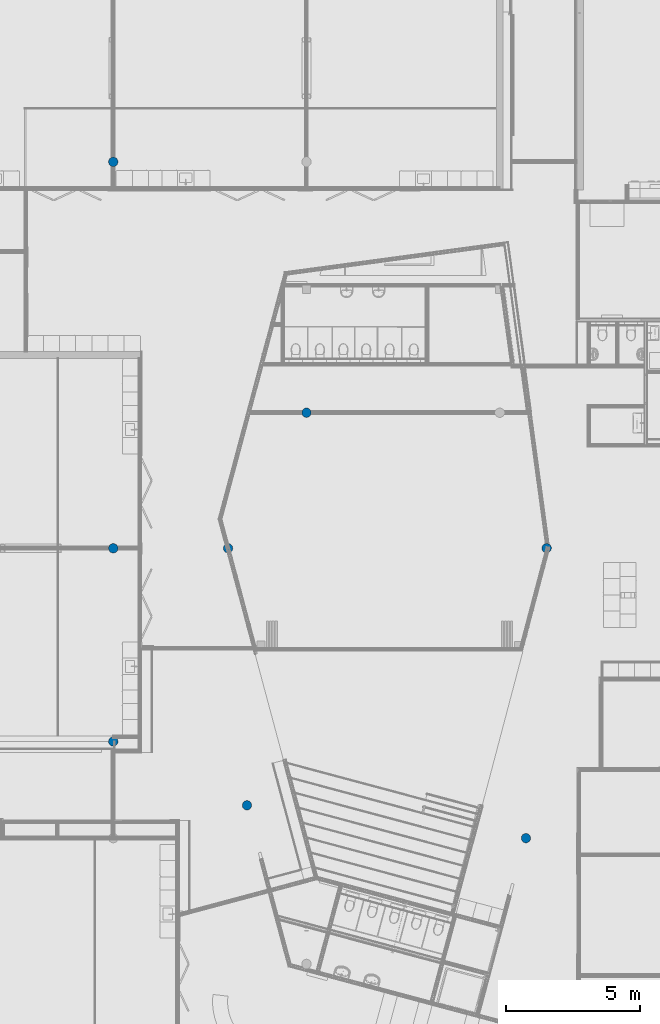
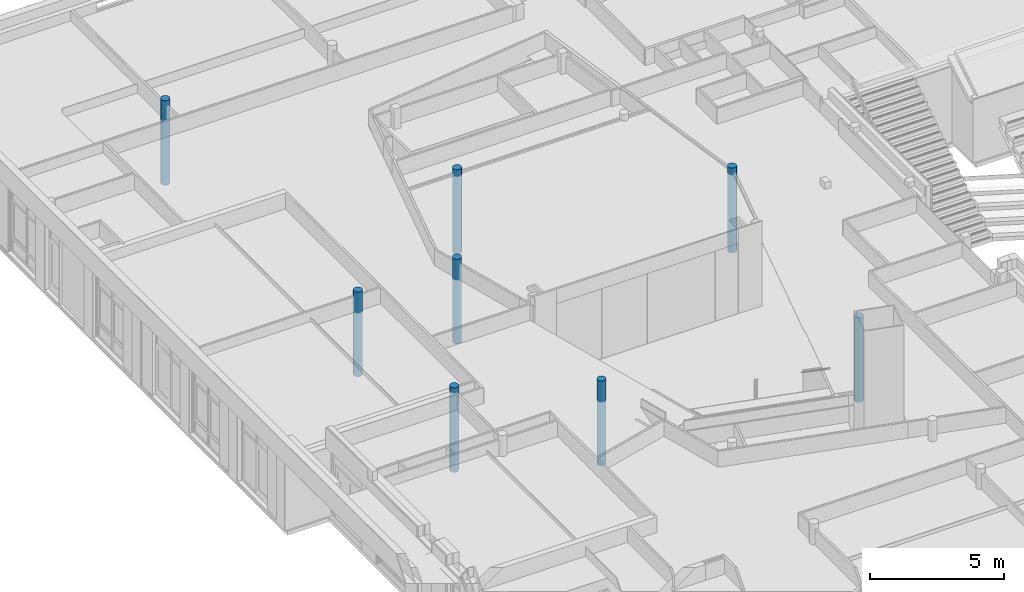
# One storey, part 6 of 167: 8 columns.
"""IFC2X3 building model written with IfcOpenShell, lengths in millimetres."""

from ifc_helpers import new_model, entity, si_unit, converted_unit, derived_unit, money_unit, direction, frame, origin_with_axes, place, context, subcontext, project, spatial, faceted_brep, material, type_object, element, save


model = new_model("IFC2X3")

# Units and contexts
model_context = context("Model", 3, precision=0.01, world=origin_with_axes(), true_north=direction((0.0, 1.0)))
plan_context = context("Plan", 3, precision=0.01, world=origin_with_axes(), true_north=direction((0.0, 1.0)))
body_context = subcontext(model_context, "Body", "Model", "MODEL_VIEW")
ifc_project = project(units=[si_unit("LENGTHUNIT", "METRE", prefix="MILLI"), si_unit("AREAUNIT", "SQUARE_METRE"), si_unit("VOLUMEUNIT", "CUBIC_METRE"), converted_unit("PLANEANGLEUNIT", "DEGREE", entity("IfcPlaneAngleMeasure", 0.0174532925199), si_unit("PLANEANGLEUNIT", "RADIAN"), dimensions=[0, 0, 0, 0, 0, 0, 0]), si_unit("SOLIDANGLEUNIT", "STERADIAN"), money_unit("EUR"), converted_unit("TIMEUNIT", "Year", entity("IfcTimeMeasure", 31556926.0), si_unit("TIMEUNIT", "SECOND"), dimensions=[0, 0, 1, 0, 0, 0, 0]), si_unit("MASSUNIT", "GRAM", prefix="KILO"), si_unit("THERMODYNAMICTEMPERATUREUNIT", "DEGREE_CELSIUS"), si_unit("LUMINOUSINTENSITYUNIT", "LUMEN"), si_unit("ENERGYUNIT", "JOULE", prefix="MEGA"), derived_unit("THERMALCONDUCTANCEUNIT", [(si_unit("POWERUNIT", "WATT"), 1), (si_unit("LENGTHUNIT", "METRE"), -1), (si_unit("THERMODYNAMICTEMPERATUREUNIT", "KELVIN"), -1)]), derived_unit("SPECIFICHEATCAPACITYUNIT", [(si_unit("ENERGYUNIT", "JOULE"), 1), (si_unit("MASSUNIT", "GRAM", prefix="KILO"), -1), (si_unit("THERMODYNAMICTEMPERATUREUNIT", "KELVIN"), -1)]), derived_unit("MASSDENSITYUNIT", [(si_unit("MASSUNIT", "GRAM", prefix="KILO"), 1), (si_unit("VOLUMEUNIT", "CUBIC_METRE"), -1)])], contexts=[model_context, plan_context])

# Site, building, storey
site_placement = place(None, origin_with_axes())
site = spatial("IfcSite", under=ifc_project, at=site_placement, Name="Site", CompositionType="ELEMENT")
building_placement = place(site_placement, origin_with_axes())
building = spatial("IfcBuilding", under=site, at=building_placement, Name="Naam gebouw", CompositionType="ELEMENT")
storey_placement = place(building_placement, origin_with_axes())
storey = spatial("IfcBuildingStorey", under=building, at=storey_placement, Name="Begane grond", CompositionType="ELEMENT", Elevation=0.0)

# Columns
ifc_material = material(Name="Beton gewapend C")
column_type = type_object("IfcColumnType", Name="Beton gewapend C D350", PredefinedType="COLUMN")
column_1_placement = place(storey_placement, frame((7200.01405593, 28800.0, -100.0), z_axis=(0.0, 0.0, 1.0), x_axis=(1.0, 0.0, 0.0)))
element("IfcColumn", 1, at=column_1_placement, inside=storey, type_object=column_type, material=ifc_material, Name="28_Kolom_Kolom-x", ObjectType="COLUMN", context=body_context, shape_type="Brep", body=[
    faceted_brep([(-175.0, 0.0, 3860.0), (-175.0, 0.0, 0.0), (-171.637424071, -34.1408063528, 0.0), (-171.637424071, -34.1408063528, 3860.0), (-171.637424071, 34.1408063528, 3860.0), (-171.637424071, 34.1408063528, 0.0), (-161.678918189, 66.9696006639, 0.0), (-145.507182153, 97.2247907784, 0.0), (-123.743686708, 123.743686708, 0.0), (-97.2247907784, 145.507182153, 0.0), (-66.9696006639, 161.678918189, 0.0), (-34.1408063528, 171.637424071, 0.0), (0.0, 175.0, 0.0), (34.1408063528, 171.637424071, 0.0), (66.9696006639, 161.678918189, 0.0), (97.2247907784, 145.507182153, 0.0), (123.743686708, 123.743686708, 0.0), (145.507182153, 97.2247907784, 0.0), (161.678918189, 66.9696006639, 0.0), (171.637424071, 34.1408063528, 0.0), (175.0, 0.0, 0.0), (171.637424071, -34.1408063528, 0.0), (161.678918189, -66.9696006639, 0.0), (145.507182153, -97.2247907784, 0.0), (123.743686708, -123.743686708, 0.0), (97.2247907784, -145.507182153, 0.0), (66.9696006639, -161.678918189, 0.0), (34.1408063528, -171.637424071, 0.0), (0.0, -175.0, 0.0), (-34.1408063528, -171.637424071, 0.0), (-66.9696006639, -161.678918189, 0.0), (-97.2247907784, -145.507182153, 0.0), (-123.743686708, -123.743686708, 0.0), (-145.507182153, -97.2247907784, 0.0), (-161.678918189, -66.9696006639, 0.0), (-161.678918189, -66.9696006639, 3860.0), (-145.507182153, -97.2247907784, 3860.0), (-123.743686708, -123.743686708, 3860.0), (-97.2247907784, -145.507182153, 3860.0), (-66.9696006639, -161.678918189, 3860.0), (-34.1408063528, -171.637424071, 3860.0), (0.0, -175.0, 3860.0), (34.1408063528, -171.637424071, 3860.0), (66.9696006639, -161.678918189, 3860.0), (97.2247907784, -145.507182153, 3860.0), (123.743686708, -123.743686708, 3860.0), (145.507182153, -97.2247907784, 3860.0), (161.678918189, -66.9696006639, 3860.0), (171.637424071, -34.1408063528, 3860.0), (175.0, 0.0, 3860.0), (171.637424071, 34.1408063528, 3860.0), (161.678918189, 66.9696006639, 3860.0), (145.507182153, 97.2247907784, 3860.0), (123.743686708, 123.743686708, 3860.0), (97.2247907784, 145.507182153, 3860.0), (66.9696006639, 161.678918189, 3860.0), (34.1408063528, 171.637424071, 3860.0), (0.0, 175.0, 3860.0), (-34.1408063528, 171.637424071, 3860.0), (-66.9696006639, 161.678918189, 3860.0), (-97.2247907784, 145.507182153, 3860.0), (-123.743686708, 123.743686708, 3860.0), (-145.507182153, 97.2247907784, 3860.0), (-161.678918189, 66.9696006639, 3860.0)], [[[0, 1, 2, 3]], [[4, 5, 1, 0]], [[2, 1, 5, 6, 7, 8, 9, 10, 11, 12, 13, 14, 15, 16, 17, 18, 19, 20, 21, 22, 23, 24, 25, 26, 27, 28, 29, 30, 31, 32, 33, 34]], [[3, 2, 34, 35]], [[4, 0, 3, 35, 36, 37, 38, 39, 40, 41, 42, 43, 44, 45, 46, 47, 48, 49, 50, 51, 52, 53, 54, 55, 56, 57, 58, 59, 60, 61, 62, 63]], [[63, 6, 5, 4]], [[62, 7, 6, 63]], [[61, 8, 7, 62]], [[60, 9, 8, 61]], [[59, 10, 9, 60]], [[58, 11, 10, 59]], [[57, 12, 11, 58]], [[56, 13, 12, 57]], [[55, 14, 13, 56]], [[54, 15, 14, 55]], [[53, 16, 15, 54]], [[52, 17, 16, 53]], [[51, 18, 17, 52]], [[50, 19, 18, 51]], [[49, 20, 19, 50]], [[48, 21, 20, 49]], [[47, 22, 21, 48]], [[46, 23, 22, 47]], [[45, 24, 23, 46]], [[44, 25, 24, 45]], [[43, 26, 25, 44]], [[42, 27, 26, 43]], [[41, 28, 27, 42]], [[40, 29, 28, 41]], [[39, 30, 29, 40]], [[38, 31, 30, 39]], [[37, 32, 31, 38]], [[36, 33, 32, 37]], [[35, 34, 33, 36]]]),
])
column_2_placement = place(storey_placement, frame((12182.0284551, 19223.8964464, -100.0), z_axis=(0.0, 0.0, 1.0), x_axis=(1.0, 0.0, 0.0)))
element("IfcColumn", 2, at=column_2_placement, inside=storey, type_object=column_type, material=ifc_material, Name="28_Kolom_Kolom-x", ObjectType="COLUMN", context=body_context, shape_type="Brep", body=[
    faceted_brep([(-175.0, 0.0, 3860.0), (-175.0, 0.0, 0.0), (-171.637424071, -34.1408063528, 0.0), (-171.637424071, -34.1408063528, 3860.0), (-171.637424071, 34.1408063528, 3860.0), (-171.637424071, 34.1408063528, 0.0), (-161.678918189, 66.9696006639, 0.0), (-145.507182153, 97.2247907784, 0.0), (-123.743686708, 123.743686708, 0.0), (-97.2247907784, 145.507182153, 0.0), (-66.9696006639, 161.678918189, 0.0), (-34.1408063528, 171.637424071, 0.0), (0.0, 175.0, 0.0), (34.1408063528, 171.637424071, 0.0), (66.9696006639, 161.678918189, 0.0), (97.2247907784, 145.507182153, 0.0), (123.743686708, 123.743686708, 0.0), (145.507182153, 97.2247907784, 0.0), (161.678918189, 66.9696006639, 0.0), (171.637424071, 34.1408063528, 0.0), (175.0, 0.0, 0.0), (171.637424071, -34.1408063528, 0.0), (161.678918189, -66.9696006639, 0.0), (145.507182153, -97.2247907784, 0.0), (123.743686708, -123.743686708, 0.0), (97.2247907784, -145.507182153, 0.0), (66.9696006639, -161.678918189, 0.0), (34.1408063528, -171.637424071, 0.0), (0.0, -175.0, 0.0), (-34.1408063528, -171.637424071, 0.0), (-66.9696006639, -161.678918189, 0.0), (-97.2247907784, -145.507182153, 0.0), (-123.743686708, -123.743686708, 0.0), (-145.507182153, -97.2247907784, 0.0), (-161.678918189, -66.9696006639, 0.0), (-161.678918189, -66.9696006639, 3860.0), (-145.507182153, -97.2247907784, 3860.0), (-123.743686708, -123.743686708, 3860.0), (-97.2247907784, -145.507182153, 3860.0), (-66.9696006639, -161.678918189, 3860.0), (-34.1408063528, -171.637424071, 3860.0), (0.0, -175.0, 3860.0), (34.1408063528, -171.637424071, 3860.0), (66.9696006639, -161.678918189, 3860.0), (97.2247907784, -145.507182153, 3860.0), (123.743686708, -123.743686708, 3860.0), (145.507182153, -97.2247907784, 3860.0), (161.678918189, -66.9696006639, 3860.0), (171.637424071, -34.1408063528, 3860.0), (175.0, 0.0, 3860.0), (171.637424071, 34.1408063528, 3860.0), (161.678918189, 66.9696006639, 3860.0), (145.507182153, 97.2247907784, 3860.0), (123.743686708, 123.743686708, 3860.0), (97.2247907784, 145.507182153, 3860.0), (66.9696006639, 161.678918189, 3860.0), (34.1408063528, 171.637424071, 3860.0), (0.0, 175.0, 3860.0), (-34.1408063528, 171.637424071, 3860.0), (-66.9696006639, 161.678918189, 3860.0), (-97.2247907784, 145.507182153, 3860.0), (-123.743686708, 123.743686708, 3860.0), (-145.507182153, 97.2247907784, 3860.0), (-161.678918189, 66.9696006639, 3860.0)], [[[0, 1, 2, 3]], [[4, 5, 1, 0]], [[2, 1, 5, 6, 7, 8, 9, 10, 11, 12, 13, 14, 15, 16, 17, 18, 19, 20, 21, 22, 23, 24, 25, 26, 27, 28, 29, 30, 31, 32, 33, 34]], [[3, 2, 34, 35]], [[4, 0, 3, 35, 36, 37, 38, 39, 40, 41, 42, 43, 44, 45, 46, 47, 48, 49, 50, 51, 52, 53, 54, 55, 56, 57, 58, 59, 60, 61, 62, 63]], [[63, 6, 5, 4]], [[62, 7, 6, 63]], [[61, 8, 7, 62]], [[60, 9, 8, 61]], [[59, 10, 9, 60]], [[58, 11, 10, 59]], [[57, 12, 11, 58]], [[56, 13, 12, 57]], [[55, 14, 13, 56]], [[54, 15, 14, 55]], [[53, 16, 15, 54]], [[52, 17, 16, 53]], [[51, 18, 17, 52]], [[50, 19, 18, 51]], [[49, 20, 19, 50]], [[48, 21, 20, 49]], [[47, 22, 21, 48]], [[46, 23, 22, 47]], [[45, 24, 23, 46]], [[44, 25, 24, 45]], [[43, 26, 25, 44]], [[42, 27, 26, 43]], [[41, 28, 27, 42]], [[40, 29, 28, 41]], [[39, 30, 29, 40]], [[38, 31, 30, 39]], [[37, 32, 31, 38]], [[36, 33, 32, 37]], [[35, 34, 33, 36]]]),
])
column_3_placement = place(storey_placement, frame((22576.7010826, 18000.0, -100.0), z_axis=(0.0, 0.0, 1.0), x_axis=(1.0, 0.0, 0.0)))
element("IfcColumn", 3, at=column_3_placement, inside=storey, type_object=column_type, material=ifc_material, Name="28_Kolom_Kolom-x", ObjectType="COLUMN", context=body_context, shape_type="Brep", body=[
    faceted_brep([(-175.0, 0.0, 3860.0), (-175.0, 0.0, 0.0), (-171.637424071, -34.1408063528, 0.0), (-171.637424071, -34.1408063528, 3860.0), (-171.637424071, 34.1408063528, 3860.0), (-171.637424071, 34.1408063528, 0.0), (-161.678918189, 66.9696006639, 0.0), (-145.507182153, 97.2247907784, 0.0), (-123.743686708, 123.743686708, 0.0), (-97.2247907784, 145.507182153, 0.0), (-66.9696006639, 161.678918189, 0.0), (-34.1408063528, 171.637424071, 0.0), (0.0, 175.0, 0.0), (34.1408063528, 171.637424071, 0.0), (66.9696006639, 161.678918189, 0.0), (97.2247907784, 145.507182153, 0.0), (123.743686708, 123.743686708, 0.0), (145.507182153, 97.2247907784, 0.0), (161.678918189, 66.9696006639, 0.0), (171.637424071, 34.1408063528, 0.0), (175.0, 0.0, 0.0), (171.637424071, -34.1408063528, 0.0), (161.678918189, -66.9696006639, 0.0), (145.507182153, -97.2247907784, 0.0), (123.743686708, -123.743686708, 0.0), (97.2247907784, -145.507182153, 0.0), (66.9696006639, -161.678918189, 0.0), (34.1408063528, -171.637424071, 0.0), (0.0, -175.0, 0.0), (-34.1408063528, -171.637424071, 0.0), (-66.9696006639, -161.678918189, 0.0), (-97.2247907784, -145.507182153, 0.0), (-123.743686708, -123.743686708, 0.0), (-145.507182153, -97.2247907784, 0.0), (-161.678918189, -66.9696006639, 0.0), (-161.678918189, -66.9696006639, 3860.0), (-145.507182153, -97.2247907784, 3860.0), (-123.743686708, -123.743686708, 3860.0), (-97.2247907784, -145.507182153, 3860.0), (-66.9696006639, -161.678918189, 3860.0), (-34.1408063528, -171.637424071, 3860.0), (0.0, -175.0, 3860.0), (34.1408063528, -171.637424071, 3860.0), (66.9696006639, -161.678918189, 3860.0), (97.2247907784, -145.507182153, 3860.0), (123.743686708, -123.743686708, 3860.0), (145.507182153, -97.2247907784, 3860.0), (161.678918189, -66.9696006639, 3860.0), (171.637424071, -34.1408063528, 3860.0), (175.0, 0.0, 3860.0), (171.637424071, 34.1408063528, 3860.0), (161.678918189, 66.9696006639, 3860.0), (145.507182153, 97.2247907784, 3860.0), (123.743686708, 123.743686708, 3860.0), (97.2247907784, 145.507182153, 3860.0), (66.9696006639, 161.678918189, 3860.0), (34.1408063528, 171.637424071, 3860.0), (0.0, 175.0, 3860.0), (-34.1408063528, 171.637424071, 3860.0), (-66.9696006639, 161.678918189, 3860.0), (-97.2247907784, 145.507182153, 3860.0), (-123.743686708, 123.743686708, 3860.0), (-145.507182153, 97.2247907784, 3860.0), (-161.678918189, 66.9696006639, 3860.0)], [[[0, 1, 2, 3]], [[4, 5, 1, 0]], [[2, 1, 5, 6, 7, 8, 9, 10, 11, 12, 13, 14, 15, 16, 17, 18, 19, 20, 21, 22, 23, 24, 25, 26, 27, 28, 29, 30, 31, 32, 33, 34]], [[3, 2, 34, 35]], [[4, 0, 3, 35, 36, 37, 38, 39, 40, 41, 42, 43, 44, 45, 46, 47, 48, 49, 50, 51, 52, 53, 54, 55, 56, 57, 58, 59, 60, 61, 62, 63]], [[63, 6, 5, 4]], [[62, 7, 6, 63]], [[61, 8, 7, 62]], [[60, 9, 8, 61]], [[59, 10, 9, 60]], [[58, 11, 10, 59]], [[57, 12, 11, 58]], [[56, 13, 12, 57]], [[55, 14, 13, 56]], [[54, 15, 14, 55]], [[53, 16, 15, 54]], [[52, 17, 16, 53]], [[51, 18, 17, 52]], [[50, 19, 18, 51]], [[49, 20, 19, 50]], [[48, 21, 20, 49]], [[47, 22, 21, 48]], [[46, 23, 22, 47]], [[45, 24, 23, 46]], [[44, 25, 24, 45]], [[43, 26, 25, 44]], [[42, 27, 26, 43]], [[41, 28, 27, 42]], [[40, 29, 28, 41]], [[39, 30, 29, 40]], [[38, 31, 30, 39]], [[37, 32, 31, 38]], [[36, 33, 32, 37]], [[35, 34, 33, 36]]]),
])
column_4_placement = place(storey_placement, frame((7200.0, 43200.0, -100.0), z_axis=(0.0, 0.0, 1.0), x_axis=(1.0, 0.0, 0.0)))
element("IfcColumn", 4, at=column_4_placement, inside=storey, type_object=column_type, material=ifc_material, Name="28_Kolom_Kolom-x", ObjectType="COLUMN", context=body_context, shape_type="Brep", body=[
    faceted_brep([(-175.0, 0.0, 3860.0), (-175.0, 0.0, 0.0), (-171.637424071, -34.1408063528, 0.0), (-171.637424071, -34.1408063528, 3860.0), (-171.637424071, 34.1408063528, 3860.0), (-171.637424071, 34.1408063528, 0.0), (-161.678918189, 66.9696006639, 0.0), (-145.507182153, 97.2247907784, 0.0), (-123.743686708, 123.743686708, 0.0), (-97.2247907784, 145.507182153, 0.0), (-66.9696006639, 161.678918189, 0.0), (-34.1408063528, 171.637424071, 0.0), (0.0, 175.0, 0.0), (34.1408063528, 171.637424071, 0.0), (66.9696006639, 161.678918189, 0.0), (97.2247907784, 145.507182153, 0.0), (123.743686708, 123.743686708, 0.0), (145.507182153, 97.2247907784, 0.0), (161.678918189, 66.9696006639, 0.0), (171.637424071, 34.1408063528, 0.0), (175.0, 0.0, 0.0), (171.637424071, -34.1408063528, 0.0), (161.678918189, -66.9696006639, 0.0), (145.507182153, -97.2247907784, 0.0), (123.743686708, -123.743686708, 0.0), (97.2247907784, -145.507182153, 0.0), (66.9696006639, -161.678918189, 0.0), (34.1408063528, -171.637424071, 0.0), (0.0, -175.0, 0.0), (-34.1408063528, -171.637424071, 0.0), (-66.9696006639, -161.678918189, 0.0), (-97.2247907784, -145.507182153, 0.0), (-123.743686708, -123.743686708, 0.0), (-145.507182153, -97.2247907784, 0.0), (-161.678918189, -66.9696006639, 0.0), (-161.678918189, -66.9696006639, 3860.0), (-145.507182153, -97.2247907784, 3860.0), (-123.743686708, -123.743686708, 3860.0), (-97.2247907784, -145.507182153, 3860.0), (-66.9696006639, -161.678918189, 3860.0), (-34.1408063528, -171.637424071, 3860.0), (0.0, -175.0, 3860.0), (34.1408063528, -171.637424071, 3860.0), (66.9696006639, -161.678918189, 3860.0), (97.2247907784, -145.507182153, 3860.0), (123.743686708, -123.743686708, 3860.0), (145.507182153, -97.2247907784, 3860.0), (161.678918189, -66.9696006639, 3860.0), (171.637424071, -34.1408063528, 3860.0), (175.0, 0.0, 3860.0), (171.637424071, 34.1408063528, 3860.0), (161.678918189, 66.9696006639, 3860.0), (145.507182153, 97.2247907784, 3860.0), (123.743686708, 123.743686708, 3860.0), (97.2247907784, 145.507182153, 3860.0), (66.9696006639, 161.678918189, 3860.0), (34.1408063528, 171.637424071, 3860.0), (0.0, 175.0, 3860.0), (-34.1408063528, 171.637424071, 3860.0), (-66.9696006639, 161.678918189, 3860.0), (-97.2247907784, 145.507182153, 3860.0), (-123.743686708, 123.743686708, 3860.0), (-145.507182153, 97.2247907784, 3860.0), (-161.678918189, 66.9696006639, 3860.0)], [[[0, 1, 2, 3]], [[4, 5, 1, 0]], [[2, 1, 5, 6, 7, 8, 9, 10, 11, 12, 13, 14, 15, 16, 17, 18, 19, 20, 21, 22, 23, 24, 25, 26, 27, 28, 29, 30, 31, 32, 33, 34]], [[3, 2, 34, 35]], [[4, 0, 3, 35, 36, 37, 38, 39, 40, 41, 42, 43, 44, 45, 46, 47, 48, 49, 50, 51, 52, 53, 54, 55, 56, 57, 58, 59, 60, 61, 62, 63]], [[63, 6, 5, 4]], [[62, 7, 6, 63]], [[61, 8, 7, 62]], [[60, 9, 8, 61]], [[59, 10, 9, 60]], [[58, 11, 10, 59]], [[57, 12, 11, 58]], [[56, 13, 12, 57]], [[55, 14, 13, 56]], [[54, 15, 14, 55]], [[53, 16, 15, 54]], [[52, 17, 16, 53]], [[51, 18, 17, 52]], [[50, 19, 18, 51]], [[49, 20, 19, 50]], [[48, 21, 20, 49]], [[47, 22, 21, 48]], [[46, 23, 22, 47]], [[45, 24, 23, 46]], [[44, 25, 24, 45]], [[43, 26, 25, 44]], [[42, 27, 26, 43]], [[41, 28, 27, 42]], [[40, 29, 28, 41]], [[39, 30, 29, 40]], [[38, 31, 30, 39]], [[37, 32, 31, 38]], [[36, 33, 32, 37]], [[35, 34, 33, 36]]]),
])
column_5_placement = place(storey_placement, frame((7200.0, 21600.0, -100.0), z_axis=(0.0, 0.0, 1.0), x_axis=(1.0, 0.0, 0.0)))
element("IfcColumn", 5, at=column_5_placement, inside=storey, type_object=column_type, material=ifc_material, Name="28_Kolom_Kolom-x", ObjectType="COLUMN", context=body_context, shape_type="Brep", body=[
    faceted_brep([(-175.0, 0.0, 3860.0), (-175.0, 0.0, 0.0), (-171.637424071, -34.1408063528, 0.0), (-171.637424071, -34.1408063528, 3860.0), (-171.637424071, 34.1408063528, 3860.0), (-171.637424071, 34.1408063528, 0.0), (-161.678918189, 66.9696006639, 0.0), (-145.507182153, 97.2247907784, 0.0), (-123.743686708, 123.743686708, 0.0), (-97.2247907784, 145.507182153, 0.0), (-66.9696006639, 161.678918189, 0.0), (-34.1408063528, 171.637424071, 0.0), (0.0, 175.0, 0.0), (34.1408063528, 171.637424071, 0.0), (66.9696006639, 161.678918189, 0.0), (97.2247907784, 145.507182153, 0.0), (123.743686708, 123.743686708, 0.0), (145.507182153, 97.2247907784, 0.0), (161.678918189, 66.9696006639, 0.0), (171.637424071, 34.1408063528, 0.0), (175.0, 0.0, 0.0), (171.637424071, -34.1408063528, 0.0), (161.678918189, -66.9696006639, 0.0), (145.507182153, -97.2247907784, 0.0), (123.743686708, -123.743686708, 0.0), (97.2247907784, -145.507182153, 0.0), (66.9696006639, -161.678918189, 0.0), (34.1408063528, -171.637424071, 0.0), (0.0, -175.0, 0.0), (-34.1408063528, -171.637424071, 0.0), (-66.9696006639, -161.678918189, 0.0), (-97.2247907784, -145.507182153, 0.0), (-123.743686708, -123.743686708, 0.0), (-145.507182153, -97.2247907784, 0.0), (-161.678918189, -66.9696006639, 0.0), (-161.678918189, -66.9696006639, 3860.0), (-145.507182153, -97.2247907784, 3860.0), (-123.743686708, -123.743686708, 3860.0), (-97.2247907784, -145.507182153, 3860.0), (-66.9696006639, -161.678918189, 3860.0), (-34.1408063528, -171.637424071, 3860.0), (0.0, -175.0, 3860.0), (34.1408063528, -171.637424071, 3860.0), (66.9696006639, -161.678918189, 3860.0), (97.2247907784, -145.507182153, 3860.0), (123.743686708, -123.743686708, 3860.0), (145.507182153, -97.2247907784, 3860.0), (161.678918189, -66.9696006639, 3860.0), (171.637424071, -34.1408063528, 3860.0), (175.0, 0.0, 3860.0), (171.637424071, 34.1408063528, 3860.0), (161.678918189, 66.9696006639, 3860.0), (145.507182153, 97.2247907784, 3860.0), (123.743686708, 123.743686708, 3860.0), (97.2247907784, 145.507182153, 3860.0), (66.9696006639, 161.678918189, 3860.0), (34.1408063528, 171.637424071, 3860.0), (0.0, 175.0, 3860.0), (-34.1408063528, 171.637424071, 3860.0), (-66.9696006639, 161.678918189, 3860.0), (-97.2247907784, 145.507182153, 3860.0), (-123.743686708, 123.743686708, 3860.0), (-145.507182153, 97.2247907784, 3860.0), (-161.678918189, 66.9696006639, 3860.0)], [[[0, 1, 2, 3]], [[4, 5, 1, 0]], [[2, 1, 5, 6, 7, 8, 9, 10, 11, 12, 13, 14, 15, 16, 17, 18, 19, 20, 21, 22, 23, 24, 25, 26, 27, 28, 29, 30, 31, 32, 33, 34]], [[3, 2, 34, 35]], [[4, 0, 3, 35, 36, 37, 38, 39, 40, 41, 42, 43, 44, 45, 46, 47, 48, 49, 50, 51, 52, 53, 54, 55, 56, 57, 58, 59, 60, 61, 62, 63]], [[63, 6, 5, 4]], [[62, 7, 6, 63]], [[61, 8, 7, 62]], [[60, 9, 8, 61]], [[59, 10, 9, 60]], [[58, 11, 10, 59]], [[57, 12, 11, 58]], [[56, 13, 12, 57]], [[55, 14, 13, 56]], [[54, 15, 14, 55]], [[53, 16, 15, 54]], [[52, 17, 16, 53]], [[51, 18, 17, 52]], [[50, 19, 18, 51]], [[49, 20, 19, 50]], [[48, 21, 20, 49]], [[47, 22, 21, 48]], [[46, 23, 22, 47]], [[45, 24, 23, 46]], [[44, 25, 24, 45]], [[43, 26, 25, 44]], [[42, 27, 26, 43]], [[41, 28, 27, 42]], [[40, 29, 28, 41]], [[39, 30, 29, 40]], [[38, 31, 30, 39]], [[37, 32, 31, 38]], [[36, 33, 32, 37]], [[35, 34, 33, 36]]]),
])
column_6_placement = place(storey_placement, frame((14400.0, 33851.6966009, -100.0), z_axis=(0.0, 0.0, 1.0), x_axis=(1.0, 0.0, 0.0)))
element("IfcColumn", 6, at=column_6_placement, inside=storey, type_object=column_type, material=ifc_material, Name="28_Kolom_Kolom-x", ObjectType="COLUMN", context=body_context, shape_type="Brep", body=[
    faceted_brep([(-175.0, 0.0, 3860.0), (-175.0, 0.0, 0.0), (-171.637424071, -34.1408063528, 0.0), (-171.637424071, -34.1408063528, 3860.0), (-171.637424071, 34.1408063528, 3860.0), (-171.637424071, 34.1408063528, 0.0), (-161.678918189, 66.9696006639, 0.0), (-145.507182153, 97.2247907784, 0.0), (-123.743686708, 123.743686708, 0.0), (-97.2247907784, 145.507182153, 0.0), (-66.9696006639, 161.678918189, 0.0), (-34.1408063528, 171.637424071, 0.0), (0.0, 175.0, 0.0), (34.1408063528, 171.637424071, 0.0), (66.9696006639, 161.678918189, 0.0), (97.2247907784, 145.507182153, 0.0), (123.743686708, 123.743686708, 0.0), (145.507182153, 97.2247907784, 0.0), (161.678918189, 66.9696006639, 0.0), (171.637424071, 34.1408063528, 0.0), (175.0, 0.0, 0.0), (171.637424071, -34.1408063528, 0.0), (161.678918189, -66.9696006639, 0.0), (145.507182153, -97.2247907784, 0.0), (123.743686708, -123.743686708, 0.0), (97.2247907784, -145.507182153, 0.0), (66.9696006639, -161.678918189, 0.0), (34.1408063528, -171.637424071, 0.0), (0.0, -175.0, 0.0), (-34.1408063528, -171.637424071, 0.0), (-66.9696006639, -161.678918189, 0.0), (-97.2247907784, -145.507182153, 0.0), (-123.743686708, -123.743686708, 0.0), (-145.507182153, -97.2247907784, 0.0), (-161.678918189, -66.9696006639, 0.0), (-161.678918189, -66.9696006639, 3860.0), (-145.507182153, -97.2247907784, 3860.0), (-123.743686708, -123.743686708, 3860.0), (-97.2247907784, -145.507182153, 3860.0), (-66.9696006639, -161.678918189, 3860.0), (-34.1408063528, -171.637424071, 3860.0), (0.0, -175.0, 3860.0), (34.1408063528, -171.637424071, 3860.0), (66.9696006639, -161.678918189, 3860.0), (97.2247907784, -145.507182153, 3860.0), (123.743686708, -123.743686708, 3860.0), (145.507182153, -97.2247907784, 3860.0), (161.678918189, -66.9696006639, 3860.0), (171.637424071, -34.1408063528, 3860.0), (175.0, 0.0, 3860.0), (171.637424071, 34.1408063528, 3860.0), (161.678918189, 66.9696006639, 3860.0), (145.507182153, 97.2247907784, 3860.0), (123.743686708, 123.743686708, 3860.0), (97.2247907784, 145.507182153, 3860.0), (66.9696006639, 161.678918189, 3860.0), (34.1408063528, 171.637424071, 3860.0), (0.0, 175.0, 3860.0), (-34.1408063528, 171.637424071, 3860.0), (-66.9696006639, 161.678918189, 3860.0), (-97.2247907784, 145.507182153, 3860.0), (-123.743686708, 123.743686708, 3860.0), (-145.507182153, 97.2247907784, 3860.0), (-161.678918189, 66.9696006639, 3860.0)], [[[0, 1, 2, 3]], [[4, 5, 1, 0]], [[2, 1, 5, 6, 7, 8, 9, 10, 11, 12, 13, 14, 15, 16, 17, 18, 19, 20, 21, 22, 23, 24, 25, 26, 27, 28, 29, 30, 31, 32, 33, 34]], [[3, 2, 34, 35]], [[4, 0, 3, 35, 36, 37, 38, 39, 40, 41, 42, 43, 44, 45, 46, 47, 48, 49, 50, 51, 52, 53, 54, 55, 56, 57, 58, 59, 60, 61, 62, 63]], [[63, 6, 5, 4]], [[62, 7, 6, 63]], [[61, 8, 7, 62]], [[60, 9, 8, 61]], [[59, 10, 9, 60]], [[58, 11, 10, 59]], [[57, 12, 11, 58]], [[56, 13, 12, 57]], [[55, 14, 13, 56]], [[54, 15, 14, 55]], [[53, 16, 15, 54]], [[52, 17, 16, 53]], [[51, 18, 17, 52]], [[50, 19, 18, 51]], [[49, 20, 19, 50]], [[48, 21, 20, 49]], [[47, 22, 21, 48]], [[46, 23, 22, 47]], [[45, 24, 23, 46]], [[44, 25, 24, 45]], [[43, 26, 25, 44]], [[42, 27, 26, 43]], [[41, 28, 27, 42]], [[40, 29, 28, 41]], [[39, 30, 29, 40]], [[38, 31, 30, 39]], [[37, 32, 31, 38]], [[36, 33, 32, 37]], [[35, 34, 33, 36]]]),
])
column_7_placement = place(storey_placement, frame((23349.1112444, 28803.1914822, -100.0), z_axis=(0.0, 0.0, 1.0), x_axis=(1.0, 0.0, 0.0)))
element("IfcColumn", 7, at=column_7_placement, inside=storey, type_object=column_type, material=ifc_material, Name="28_Kolom_Kolom-x", ObjectType="COLUMN", context=body_context, shape_type="Brep", body=[
    faceted_brep([(-175.0, 0.0, 3860.0), (-175.0, 0.0, 0.0), (-171.637424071, -34.1408063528, 0.0), (-171.637424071, -34.1408063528, 3860.0), (-171.637424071, 34.1408063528, 3860.0), (-171.637424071, 34.1408063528, 0.0), (-161.678918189, 66.9696006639, 0.0), (-145.507182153, 97.2247907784, 0.0), (-123.743686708, 123.743686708, 0.0), (-97.2247907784, 145.507182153, 0.0), (-66.9696006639, 161.678918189, 0.0), (-34.1408063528, 171.637424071, 0.0), (0.0, 175.0, 0.0), (34.1408063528, 171.637424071, 0.0), (66.9696006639, 161.678918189, 0.0), (97.2247907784, 145.507182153, 0.0), (123.743686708, 123.743686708, 0.0), (145.507182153, 97.2247907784, 0.0), (161.678918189, 66.9696006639, 0.0), (171.637424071, 34.1408063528, 0.0), (175.0, 0.0, 0.0), (171.637424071, -34.1408063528, 0.0), (161.678918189, -66.9696006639, 0.0), (145.507182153, -97.2247907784, 0.0), (123.743686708, -123.743686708, 0.0), (97.2247907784, -145.507182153, 0.0), (66.9696006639, -161.678918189, 0.0), (34.1408063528, -171.637424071, 0.0), (0.0, -175.0, 0.0), (-34.1408063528, -171.637424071, 0.0), (-66.9696006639, -161.678918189, 0.0), (-97.2247907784, -145.507182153, 0.0), (-123.743686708, -123.743686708, 0.0), (-145.507182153, -97.2247907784, 0.0), (-161.678918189, -66.9696006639, 0.0), (-161.678918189, -66.9696006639, 3860.0), (-145.507182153, -97.2247907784, 3860.0), (-123.743686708, -123.743686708, 3860.0), (-97.2247907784, -145.507182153, 3860.0), (-66.9696006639, -161.678918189, 3860.0), (-34.1408063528, -171.637424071, 3860.0), (0.0, -175.0, 3860.0), (34.1408063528, -171.637424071, 3860.0), (66.9696006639, -161.678918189, 3860.0), (97.2247907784, -145.507182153, 3860.0), (123.743686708, -123.743686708, 3860.0), (145.507182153, -97.2247907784, 3860.0), (161.678918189, -66.9696006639, 3860.0), (171.637424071, -34.1408063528, 3860.0), (175.0, 0.0, 3860.0), (171.637424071, 34.1408063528, 3860.0), (161.678918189, 66.9696006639, 3860.0), (145.507182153, 97.2247907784, 3860.0), (123.743686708, 123.743686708, 3860.0), (97.2247907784, 145.507182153, 3860.0), (66.9696006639, 161.678918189, 3860.0), (34.1408063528, 171.637424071, 3860.0), (0.0, 175.0, 3860.0), (-34.1408063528, 171.637424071, 3860.0), (-66.9696006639, 161.678918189, 3860.0), (-97.2247907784, 145.507182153, 3860.0), (-123.743686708, 123.743686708, 3860.0), (-145.507182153, 97.2247907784, 3860.0), (-161.678918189, 66.9696006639, 3860.0)], [[[0, 1, 2, 3]], [[4, 5, 1, 0]], [[2, 1, 5, 6, 7, 8, 9, 10, 11, 12, 13, 14, 15, 16, 17, 18, 19, 20, 21, 22, 23, 24, 25, 26, 27, 28, 29, 30, 31, 32, 33, 34]], [[3, 2, 34, 35]], [[4, 0, 3, 35, 36, 37, 38, 39, 40, 41, 42, 43, 44, 45, 46, 47, 48, 49, 50, 51, 52, 53, 54, 55, 56, 57, 58, 59, 60, 61, 62, 63]], [[63, 6, 5, 4]], [[62, 7, 6, 63]], [[61, 8, 7, 62]], [[60, 9, 8, 61]], [[59, 10, 9, 60]], [[58, 11, 10, 59]], [[57, 12, 11, 58]], [[56, 13, 12, 57]], [[55, 14, 13, 56]], [[54, 15, 14, 55]], [[53, 16, 15, 54]], [[52, 17, 16, 53]], [[51, 18, 17, 52]], [[50, 19, 18, 51]], [[49, 20, 19, 50]], [[48, 21, 20, 49]], [[47, 22, 21, 48]], [[46, 23, 22, 47]], [[45, 24, 23, 46]], [[44, 25, 24, 45]], [[43, 26, 25, 44]], [[42, 27, 26, 43]], [[41, 28, 27, 42]], [[40, 29, 28, 41]], [[39, 30, 29, 40]], [[38, 31, 30, 39]], [[37, 32, 31, 38]], [[36, 33, 32, 37]], [[35, 34, 33, 36]]]),
])
column_8_placement = place(storey_placement, frame((11478.761211, 28803.1914822, -100.0), z_axis=(0.0, 0.0, 1.0), x_axis=(1.0, 0.0, 0.0)))
element("IfcColumn", 8, at=column_8_placement, inside=storey, type_object=column_type, material=ifc_material, Name="28_Kolom_Kolom-x", ObjectType="COLUMN", context=body_context, shape_type="Brep", body=[
    faceted_brep([(-175.0, 0.0, 3860.0), (-175.0, 0.0, 0.0), (-171.637424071, -34.1408063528, 0.0), (-171.637424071, -34.1408063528, 3860.0), (-171.637424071, 34.1408063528, 3860.0), (-171.637424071, 34.1408063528, 0.0), (-161.678918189, 66.9696006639, 0.0), (-145.507182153, 97.2247907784, 0.0), (-123.743686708, 123.743686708, 0.0), (-97.2247907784, 145.507182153, 0.0), (-66.9696006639, 161.678918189, 0.0), (-34.1408063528, 171.637424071, 0.0), (0.0, 175.0, 0.0), (34.1408063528, 171.637424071, 0.0), (66.9696006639, 161.678918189, 0.0), (97.2247907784, 145.507182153, 0.0), (123.743686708, 123.743686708, 0.0), (145.507182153, 97.2247907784, 0.0), (161.678918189, 66.9696006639, 0.0), (171.637424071, 34.1408063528, 0.0), (175.0, 0.0, 0.0), (171.637424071, -34.1408063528, 0.0), (161.678918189, -66.9696006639, 0.0), (145.507182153, -97.2247907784, 0.0), (123.743686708, -123.743686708, 0.0), (97.2247907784, -145.507182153, 0.0), (66.9696006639, -161.678918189, 0.0), (34.1408063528, -171.637424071, 0.0), (0.0, -175.0, 0.0), (-34.1408063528, -171.637424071, 0.0), (-66.9696006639, -161.678918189, 0.0), (-97.2247907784, -145.507182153, 0.0), (-123.743686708, -123.743686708, 0.0), (-145.507182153, -97.2247907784, 0.0), (-161.678918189, -66.9696006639, 0.0), (-161.678918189, -66.9696006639, 3860.0), (-145.507182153, -97.2247907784, 3860.0), (-123.743686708, -123.743686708, 3860.0), (-97.2247907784, -145.507182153, 3860.0), (-66.9696006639, -161.678918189, 3860.0), (-34.1408063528, -171.637424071, 3860.0), (0.0, -175.0, 3860.0), (34.1408063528, -171.637424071, 3860.0), (66.9696006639, -161.678918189, 3860.0), (97.2247907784, -145.507182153, 3860.0), (123.743686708, -123.743686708, 3860.0), (145.507182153, -97.2247907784, 3860.0), (161.678918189, -66.9696006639, 3860.0), (171.637424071, -34.1408063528, 3860.0), (175.0, 0.0, 3860.0), (171.637424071, 34.1408063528, 3860.0), (161.678918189, 66.9696006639, 3860.0), (145.507182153, 97.2247907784, 3860.0), (123.743686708, 123.743686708, 3860.0), (97.2247907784, 145.507182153, 3860.0), (66.9696006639, 161.678918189, 3860.0), (34.1408063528, 171.637424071, 3860.0), (0.0, 175.0, 3860.0), (-34.1408063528, 171.637424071, 3860.0), (-66.9696006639, 161.678918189, 3860.0), (-97.2247907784, 145.507182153, 3860.0), (-123.743686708, 123.743686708, 3860.0), (-145.507182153, 97.2247907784, 3860.0), (-161.678918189, 66.9696006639, 3860.0)], [[[0, 1, 2, 3]], [[4, 5, 1, 0]], [[2, 1, 5, 6, 7, 8, 9, 10, 11, 12, 13, 14, 15, 16, 17, 18, 19, 20, 21, 22, 23, 24, 25, 26, 27, 28, 29, 30, 31, 32, 33, 34]], [[3, 2, 34, 35]], [[4, 0, 3, 35, 36, 37, 38, 39, 40, 41, 42, 43, 44, 45, 46, 47, 48, 49, 50, 51, 52, 53, 54, 55, 56, 57, 58, 59, 60, 61, 62, 63]], [[63, 6, 5, 4]], [[62, 7, 6, 63]], [[61, 8, 7, 62]], [[60, 9, 8, 61]], [[59, 10, 9, 60]], [[58, 11, 10, 59]], [[57, 12, 11, 58]], [[56, 13, 12, 57]], [[55, 14, 13, 56]], [[54, 15, 14, 55]], [[53, 16, 15, 54]], [[52, 17, 16, 53]], [[51, 18, 17, 52]], [[50, 19, 18, 51]], [[49, 20, 19, 50]], [[48, 21, 20, 49]], [[47, 22, 21, 48]], [[46, 23, 22, 47]], [[45, 24, 23, 46]], [[44, 25, 24, 45]], [[43, 26, 25, 44]], [[42, 27, 26, 43]], [[41, 28, 27, 42]], [[40, 29, 28, 41]], [[39, 30, 29, 40]], [[38, 31, 30, 39]], [[37, 32, 31, 38]], [[36, 33, 32, 37]], [[35, 34, 33, 36]]]),
])

save(model, "model.ifc")
